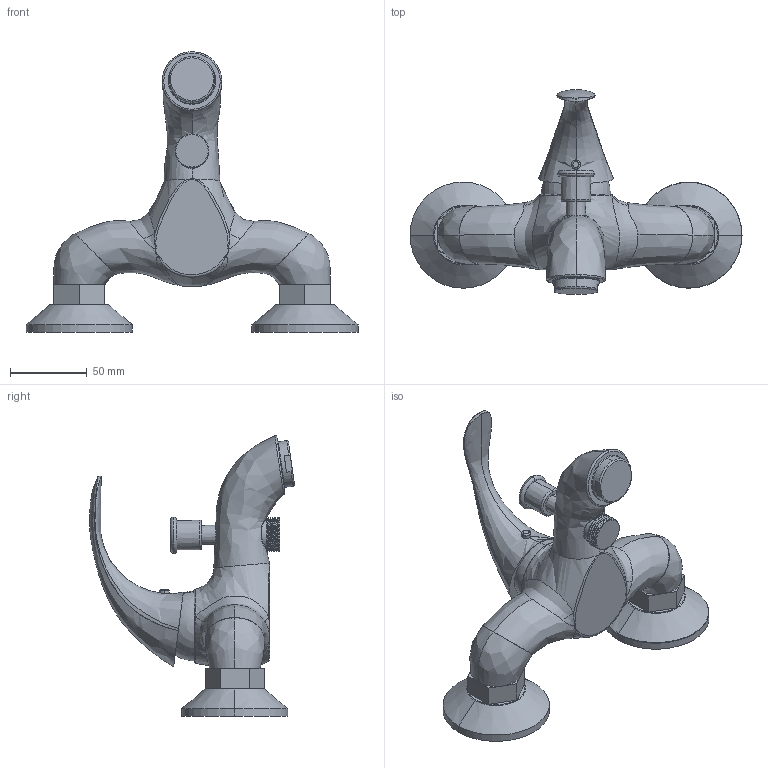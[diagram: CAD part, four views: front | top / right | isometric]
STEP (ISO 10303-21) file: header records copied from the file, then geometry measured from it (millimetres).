
FILE_DESCRIPTION (( 'STEP AP214' ), '1' );
FILE_NAME ('f2cr111.STEP', '2020-04-03T18:37:47', ( 'Andrey' ), ( '' ), 'SwSTEP 2.0', 'SolidWorks 2017', '' );
FILE_SCHEMA (( 'AUTOMOTIVE_DESIGN' ));
Length unit declared in the file: millimetre
Products named in the file (1): f2cr111
Bounding box: 216.09 x 133.35 x 182.62 mm (x, y, z)
Volume: 553210.1 mm3; surface area: 69292.8 mm2
Topology: 1 solids, 1 shells, 191 faces, 487 edges, 281 vertices
Faces by surface type: bspline 67, plane 56, cylinder 24, torus 23, cone 16, sphere 5
Entity records: 14778 total; most frequent: CARTESIAN_POINT 10882, ORIENTED_EDGE 930, DIRECTION 644, EDGE_CURVE 465, VERTEX_POINT 281, AXIS2_PLACEMENT_3D 274, EDGE_LOOP 196, B_SPLINE_CURVE_WITH_KNOTS 196
